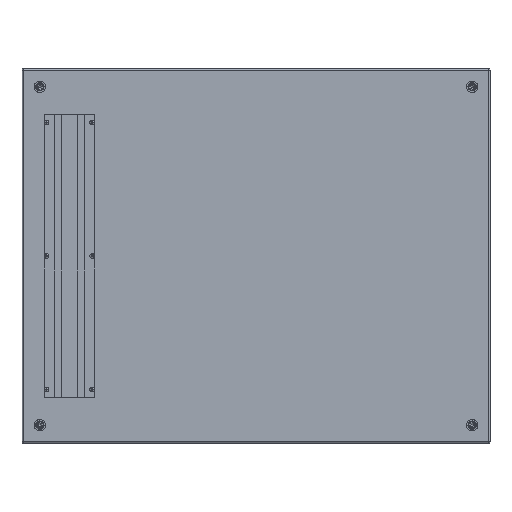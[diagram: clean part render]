
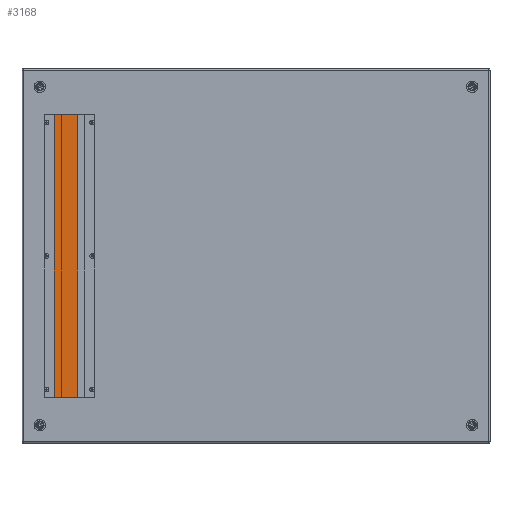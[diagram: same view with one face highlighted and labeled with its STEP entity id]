
A CAD part, top view. The second image highlights one B-rep face of the part: STEP entity #3168.
In plain terms, the highlighted planar face has unit normal (0, 0, 1).
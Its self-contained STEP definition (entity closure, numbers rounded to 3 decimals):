
#3168=ADVANCED_FACE('',(#19208),#19210,.T.);
#19208=FACE_BOUND('',#19209,.T.);
#19209=EDGE_LOOP('',(#27969,#27970,#27971,#27972));
#19210=PLANE('',#19211);
#19211=AXIS2_PLACEMENT_3D('',#19212,#19213,#19214);
#19212=CARTESIAN_POINT('',(-71.,-301.,0.));
#19213=DIRECTION('',(0.,0.,1.));
#19214=DIRECTION('',(1.,0.,0.));
#27969=ORIENTED_EDGE('',*,*,#32361,.T.);
#27970=ORIENTED_EDGE('',*,*,#32348,.T.);
#27971=ORIENTED_EDGE('',*,*,#32362,.F.);
#27972=ORIENTED_EDGE('',*,*,#32359,.F.);
#32348=EDGE_CURVE('',#39623,#39628,#39630,.T.);
#32359=EDGE_CURVE('',#39646,#39648,#39649,.T.);
#32361=EDGE_CURVE('',#39646,#39623,#39651,.T.);
#32362=EDGE_CURVE('',#39648,#39628,#39652,.T.);
#39623=VERTEX_POINT('',#57723);
#39628=VERTEX_POINT('',#57732);
#39630=LINE('',#57736,#57737);
#39646=VERTEX_POINT('',#57772);
#39648=VERTEX_POINT('',#57776);
#39649=LINE('',#57777,#57778);
#39651=LINE('',#57783,#57784);
#39652=LINE('',#57786,#57787);
#57723=CARTESIAN_POINT('',(-21.,-301.,0.));
#57732=CARTESIAN_POINT('',(-21.,301.,0.));
#57736=CARTESIAN_POINT('',(-21.,-301.,0.));
#57737=VECTOR('',#57738,1.);
#57738=DIRECTION('',(0.,1.,0.));
#57772=CARTESIAN_POINT('',(-71.,-301.,0.));
#57776=CARTESIAN_POINT('',(-71.,301.,0.));
#57777=CARTESIAN_POINT('',(-71.,-301.,0.));
#57778=VECTOR('',#57779,1.);
#57779=DIRECTION('',(0.,1.,0.));
#57783=CARTESIAN_POINT('',(-71.,-301.,0.));
#57784=VECTOR('',#57785,1.);
#57785=DIRECTION('',(1.,0.,0.));
#57786=CARTESIAN_POINT('',(-71.,301.,0.));
#57787=VECTOR('',#57788,1.);
#57788=DIRECTION('',(1.,0.,0.));
